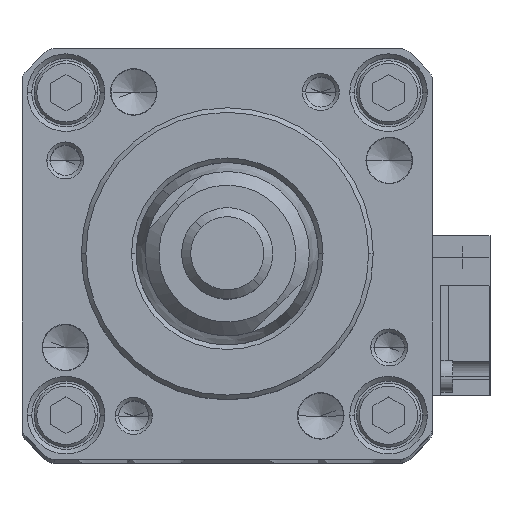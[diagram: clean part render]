
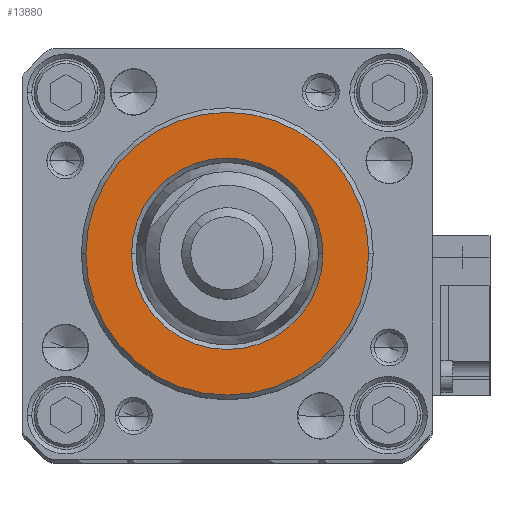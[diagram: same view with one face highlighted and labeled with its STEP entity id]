
A CAD part, top view. The second image highlights one B-rep face of the part: STEP entity #13880.
In plain terms, the highlighted planar face has unit normal (0, 0, 1).
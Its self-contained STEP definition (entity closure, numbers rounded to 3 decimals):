
#278 = CIRCLE ( 'NONE', #8393, 10.5 ) ;
#2140 = CARTESIAN_POINT ( 'NONE',  ( -15.5, 0., 257. ) ) ;
#2250 = CARTESIAN_POINT ( 'NONE',  ( 0., 0., 257. ) ) ;
#3852 = PLANE ( 'NONE',  #18555 ) ;
#3934 = ORIENTED_EDGE ( 'NONE', *, *, #13467, .T. ) ;
#4320 = DIRECTION ( 'NONE',  ( 1., 0., 0. ) ) ;
#4454 = VERTEX_POINT ( 'NONE', #23661 ) ;
#5466 = FACE_BOUND ( 'NONE', #6595, .T. ) ;
#5922 = DIRECTION ( 'NONE',  ( 0., 0., 1. ) ) ;
#6595 = EDGE_LOOP ( 'NONE', ( #19360, #11179 ) ) ;
#6849 = DIRECTION ( 'NONE',  ( 0., 0., -1. ) ) ;
#7718 = CARTESIAN_POINT ( 'NONE',  ( 0., 0., 257. ) ) ;
#8393 = AXIS2_PLACEMENT_3D ( 'NONE', #19271, #6849, #21347 ) ;
#9792 = DIRECTION ( 'NONE',  ( 1., 0., 0. ) ) ;
#10242 = CARTESIAN_POINT ( 'NONE',  ( 0., 0., 257. ) ) ;
#10596 = CARTESIAN_POINT ( 'NONE',  ( 10.5, 0., 257. ) ) ;
#11091 = CIRCLE ( 'NONE', #24619, 10.5 ) ;
#11179 = ORIENTED_EDGE ( 'NONE', *, *, #23173, .T. ) ;
#12301 = DIRECTION ( 'NONE',  ( 1., 0., 0. ) ) ;
#13467 = EDGE_CURVE ( 'NONE', #4454, #26151, #21985, .T. ) ;
#13880 = ADVANCED_FACE ( 'NONE', ( #5466, #17124 ), #3852, .T. ) ;
#14922 = CARTESIAN_POINT ( 'NONE',  ( -10.5, 0., 257. ) ) ;
#16699 = DIRECTION ( 'NONE',  ( 0., 0., 1. ) ) ;
#17124 = FACE_OUTER_BOUND ( 'NONE', #25043, .T. ) ;
#17212 = EDGE_CURVE ( 'NONE', #23423, #25252, #278, .T. ) ;
#18382 = AXIS2_PLACEMENT_3D ( 'NONE', #10242, #24702, #12301 ) ;
#18555 = AXIS2_PLACEMENT_3D ( 'NONE', #26553, #5922, #20411 ) ;
#19271 = CARTESIAN_POINT ( 'NONE',  ( 0., 0., 257. ) ) ;
#19360 = ORIENTED_EDGE ( 'NONE', *, *, #17212, .T. ) ;
#19543 = CIRCLE ( 'NONE', #18382, 15.5 ) ;
#20411 = DIRECTION ( 'NONE',  ( 1., 0., 0. ) ) ;
#21347 = DIRECTION ( 'NONE',  ( 1., 0., 0. ) ) ;
#21985 = CIRCLE ( 'NONE', #23705, 15.5 ) ;
#22172 = DIRECTION ( 'NONE',  ( 0., 0., -1. ) ) ;
#22856 = EDGE_CURVE ( 'NONE', #26151, #4454, #19543, .T. ) ;
#23173 = EDGE_CURVE ( 'NONE', #25252, #23423, #11091, .T. ) ;
#23321 = ORIENTED_EDGE ( 'NONE', *, *, #22856, .T. ) ;
#23423 = VERTEX_POINT ( 'NONE', #10596 ) ;
#23661 = CARTESIAN_POINT ( 'NONE',  ( 15.5, 0., 257. ) ) ;
#23705 = AXIS2_PLACEMENT_3D ( 'NONE', #2250, #16699, #4320 ) ;
#24619 = AXIS2_PLACEMENT_3D ( 'NONE', #7718, #22172, #9792 ) ;
#24702 = DIRECTION ( 'NONE',  ( 0., 0., 1. ) ) ;
#25043 = EDGE_LOOP ( 'NONE', ( #23321, #3934 ) ) ;
#25252 = VERTEX_POINT ( 'NONE', #14922 ) ;
#26151 = VERTEX_POINT ( 'NONE', #2140 ) ;
#26553 = CARTESIAN_POINT ( 'NONE',  ( 0., 0., 257. ) ) ;
